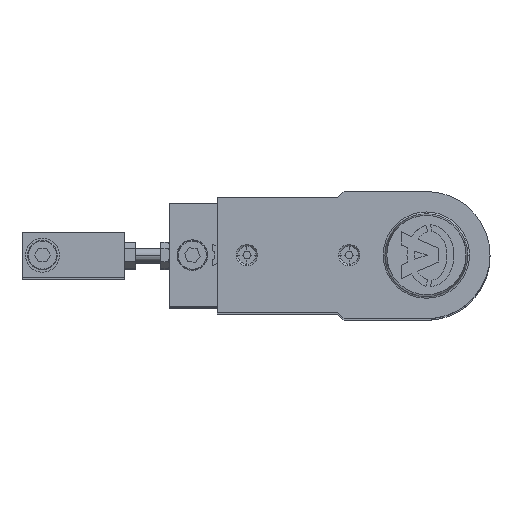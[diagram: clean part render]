
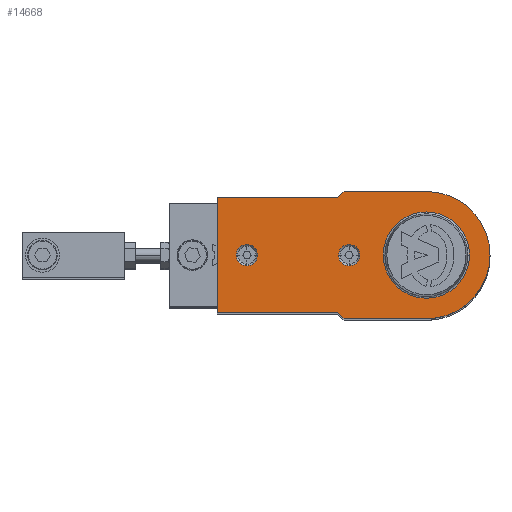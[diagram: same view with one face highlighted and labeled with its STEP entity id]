
A CAD part, top view. The second image highlights one B-rep face of the part: STEP entity #14668.
In plain terms, the highlighted planar face has unit normal (0, 0, 1).
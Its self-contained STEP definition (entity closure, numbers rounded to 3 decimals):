
#40 = VERTEX_POINT ( 'NONE', #14060 ) ;
#246 = CARTESIAN_POINT ( 'NONE',  ( 29.3, 0., 37. ) ) ;
#612 = VERTEX_POINT ( 'NONE', #12897 ) ;
#652 = CIRCLE ( 'NONE', #8106, 28. ) ;
#662 = VERTEX_POINT ( 'NONE', #14235 ) ;
#686 = EDGE_CURVE ( 'NONE', #984, #6394, #4591, .T. ) ;
#984 = VERTEX_POINT ( 'NONE', #11335 ) ;
#1056 = DIRECTION ( 'NONE',  ( 1., 0., 0. ) ) ;
#1222 = CARTESIAN_POINT ( 'NONE',  ( 34., 0., 37. ) ) ;
#1491 = AXIS2_PLACEMENT_3D ( 'NONE', #12757, #14098, #1056 ) ;
#1543 = EDGE_LOOP ( 'NONE', ( #2355, #11349 ) ) ;
#1616 = CIRCLE ( 'NONE', #13644, 4.7 ) ;
#1648 = VECTOR ( 'NONE', #10731, 1000. ) ;
#1750 = VERTEX_POINT ( 'NONE', #14047 ) ;
#1835 = ORIENTED_EDGE ( 'NONE', *, *, #7530, .T. ) ;
#1883 = CIRCLE ( 'NONE', #14218, 18.996 ) ;
#2006 = AXIS2_PLACEMENT_3D ( 'NONE', #4940, #6150, #12206 ) ;
#2058 = DIRECTION ( 'NONE',  ( 1., 0., 0. ) ) ;
#2111 = CARTESIAN_POINT ( 'NONE',  ( 0., 0., 37. ) ) ;
#2229 = VERTEX_POINT ( 'NONE', #10164 ) ;
#2317 = LINE ( 'NONE', #14488, #10681 ) ;
#2355 = ORIENTED_EDGE ( 'NONE', *, *, #15057, .F. ) ;
#2533 = DIRECTION ( 'NONE',  ( 0., 0., 1. ) ) ;
#2580 = LINE ( 'NONE', #11852, #7610 ) ;
#2610 = EDGE_CURVE ( 'NONE', #13581, #10367, #1616, .T. ) ;
#2684 = CARTESIAN_POINT ( 'NONE',  ( 39., 25.25, 37. ) ) ;
#2905 = CARTESIAN_POINT ( 'NONE',  ( 79., 0., 37. ) ) ;
#2956 = DIRECTION ( 'NONE',  ( 1., 0., 0. ) ) ;
#3094 = DIRECTION ( 'NONE',  ( 0., 0., -1. ) ) ;
#3155 = DIRECTION ( 'NONE',  ( 0., 0., 1. ) ) ;
#3250 = CARTESIAN_POINT ( 'NONE',  ( 0., 0., 37. ) ) ;
#3384 = EDGE_LOOP ( 'NONE', ( #3442, #13867 ) ) ;
#3395 = VERTEX_POINT ( 'NONE', #6151 ) ;
#3397 = VERTEX_POINT ( 'NONE', #9561 ) ;
#3442 = ORIENTED_EDGE ( 'NONE', *, *, #4328, .T. ) ;
#3502 = DIRECTION ( 'NONE',  ( 1., 0., 0. ) ) ;
#3597 = AXIS2_PLACEMENT_3D ( 'NONE', #1222, #10656, #11837 ) ;
#3607 = EDGE_CURVE ( 'NONE', #3395, #2229, #652, .T. ) ;
#3664 = DIRECTION ( 'NONE',  ( 1., 0., 0. ) ) ;
#3698 = DIRECTION ( 'NONE',  ( -0.707, 0.707, 0. ) ) ;
#4189 = DIRECTION ( 'NONE',  ( 1., 0., 0. ) ) ;
#4328 = EDGE_CURVE ( 'NONE', #662, #3397, #5965, .T. ) ;
#4520 = ORIENTED_EDGE ( 'NONE', *, *, #7560, .T. ) ;
#4544 = EDGE_CURVE ( 'NONE', #4616, #14222, #5787, .T. ) ;
#4591 = LINE ( 'NONE', #5833, #1648 ) ;
#4616 = VERTEX_POINT ( 'NONE', #11075 ) ;
#4940 = CARTESIAN_POINT ( 'NONE',  ( 0., 0., 37. ) ) ;
#4971 = FACE_BOUND ( 'NONE', #14125, .T. ) ;
#5341 = LINE ( 'NONE', #12004, #9621 ) ;
#5475 = DIRECTION ( 'NONE',  ( 1., 0., 0. ) ) ;
#5516 = VECTOR ( 'NONE', #8405, 1000. ) ;
#5659 = PLANE ( 'NONE',  #1491 ) ;
#5774 = EDGE_LOOP ( 'NONE', ( #4520, #7944, #11733, #9978, #1835, #13621, #15194, #8202, #13180 ) ) ;
#5787 = CIRCLE ( 'NONE', #10202, 4.7 ) ;
#5833 = CARTESIAN_POINT ( 'NONE',  ( 92., -25.25, 37. ) ) ;
#5965 = CIRCLE ( 'NONE', #14363, 18.996 ) ;
#6138 = VECTOR ( 'NONE', #10315, 1000. ) ;
#6150 = DIRECTION ( 'NONE',  ( 0., 0., 1. ) ) ;
#6151 = CARTESIAN_POINT ( 'NONE',  ( -28., 0., 37. ) ) ;
#6202 = DIRECTION ( 'NONE',  ( 0., 0., 1. ) ) ;
#6338 = EDGE_CURVE ( 'NONE', #612, #1750, #12851, .T. ) ;
#6394 = VERTEX_POINT ( 'NONE', #10269 ) ;
#6792 = CARTESIAN_POINT ( 'NONE',  ( 36.25, -28., 37. ) ) ;
#7106 = EDGE_CURVE ( 'NONE', #6394, #40, #15182, .T. ) ;
#7166 = VERTEX_POINT ( 'NONE', #2684 ) ;
#7474 = CIRCLE ( 'NONE', #10300, 4.7 ) ;
#7530 = EDGE_CURVE ( 'NONE', #2229, #14706, #5341, .T. ) ;
#7560 = EDGE_CURVE ( 'NONE', #7166, #612, #2580, .T. ) ;
#7610 = VECTOR ( 'NONE', #3698, 1000. ) ;
#7829 = CIRCLE ( 'NONE', #2006, 28. ) ;
#7944 = ORIENTED_EDGE ( 'NONE', *, *, #6338, .T. ) ;
#8070 = CARTESIAN_POINT ( 'NONE',  ( 0., 0., 37. ) ) ;
#8106 = AXIS2_PLACEMENT_3D ( 'NONE', #8070, #3155, #5475 ) ;
#8127 = ORIENTED_EDGE ( 'NONE', *, *, #4544, .F. ) ;
#8202 = ORIENTED_EDGE ( 'NONE', *, *, #7106, .T. ) ;
#8289 = EDGE_CURVE ( 'NONE', #14706, #984, #11833, .T. ) ;
#8353 = CARTESIAN_POINT ( 'NONE',  ( 36.25, -28., 37. ) ) ;
#8405 = DIRECTION ( 'NONE',  ( 0.707, 0.707, 0. ) ) ;
#8815 = CARTESIAN_POINT ( 'NONE',  ( 74.3, 0., 37. ) ) ;
#8818 = CARTESIAN_POINT ( 'NONE',  ( 83.7, 0., 37. ) ) ;
#9161 = DIRECTION ( 'NONE',  ( 0., 0., -1. ) ) ;
#9275 = CIRCLE ( 'NONE', #3597, 4.7 ) ;
#9561 = CARTESIAN_POINT ( 'NONE',  ( -18.996, 0., 37. ) ) ;
#9621 = VECTOR ( 'NONE', #3502, 1000. ) ;
#9685 = ORIENTED_EDGE ( 'NONE', *, *, #14113, .F. ) ;
#9978 = ORIENTED_EDGE ( 'NONE', *, *, #3607, .T. ) ;
#10164 = CARTESIAN_POINT ( 'NONE',  ( 0., -28., 37. ) ) ;
#10202 = AXIS2_PLACEMENT_3D ( 'NONE', #13340, #6202, #2956 ) ;
#10269 = CARTESIAN_POINT ( 'NONE',  ( 92., -25.25, 37. ) ) ;
#10300 = AXIS2_PLACEMENT_3D ( 'NONE', #2905, #11216, #4189 ) ;
#10315 = DIRECTION ( 'NONE',  ( -1., 0., 0. ) ) ;
#10316 = EDGE_CURVE ( 'NONE', #40, #7166, #2317, .T. ) ;
#10367 = VERTEX_POINT ( 'NONE', #8818 ) ;
#10656 = DIRECTION ( 'NONE',  ( 0., 0., 1. ) ) ;
#10681 = VECTOR ( 'NONE', #13565, 1000. ) ;
#10731 = DIRECTION ( 'NONE',  ( 1., 0., 0. ) ) ;
#11048 = CARTESIAN_POINT ( 'NONE',  ( 92., 25.25, 37. ) ) ;
#11075 = CARTESIAN_POINT ( 'NONE',  ( 38.7, 0., 37. ) ) ;
#11216 = DIRECTION ( 'NONE',  ( 0., 0., 1. ) ) ;
#11335 = CARTESIAN_POINT ( 'NONE',  ( 39., -25.25, 37. ) ) ;
#11349 = ORIENTED_EDGE ( 'NONE', *, *, #2610, .F. ) ;
#11449 = DIRECTION ( 'NONE',  ( 1., 0., 0. ) ) ;
#11733 = ORIENTED_EDGE ( 'NONE', *, *, #12383, .T. ) ;
#11833 = LINE ( 'NONE', #8353, #5516 ) ;
#11837 = DIRECTION ( 'NONE',  ( 1., 0., 0. ) ) ;
#11852 = CARTESIAN_POINT ( 'NONE',  ( 36.25, 28., 37. ) ) ;
#12004 = CARTESIAN_POINT ( 'NONE',  ( 0., -28., 37. ) ) ;
#12060 = VECTOR ( 'NONE', #12226, 1000. ) ;
#12206 = DIRECTION ( 'NONE',  ( 1., 0., 0. ) ) ;
#12226 = DIRECTION ( 'NONE',  ( 0., 1., 0. ) ) ;
#12383 = EDGE_CURVE ( 'NONE', #1750, #3395, #7829, .T. ) ;
#12571 = FACE_BOUND ( 'NONE', #3384, .T. ) ;
#12743 = CARTESIAN_POINT ( 'NONE',  ( 0., 28., 37. ) ) ;
#12757 = CARTESIAN_POINT ( 'NONE',  ( 0., 0., 37. ) ) ;
#12851 = LINE ( 'NONE', #12743, #6138 ) ;
#12897 = CARTESIAN_POINT ( 'NONE',  ( 36.25, 28., 37. ) ) ;
#13180 = ORIENTED_EDGE ( 'NONE', *, *, #10316, .T. ) ;
#13340 = CARTESIAN_POINT ( 'NONE',  ( 34., 0., 37. ) ) ;
#13565 = DIRECTION ( 'NONE',  ( -1., 0., 0. ) ) ;
#13581 = VERTEX_POINT ( 'NONE', #8815 ) ;
#13621 = ORIENTED_EDGE ( 'NONE', *, *, #8289, .T. ) ;
#13644 = AXIS2_PLACEMENT_3D ( 'NONE', #14533, #2533, #3664 ) ;
#13720 = EDGE_CURVE ( 'NONE', #3397, #662, #1883, .T. ) ;
#13867 = ORIENTED_EDGE ( 'NONE', *, *, #13720, .T. ) ;
#14047 = CARTESIAN_POINT ( 'NONE',  ( 0., 28., 37. ) ) ;
#14060 = CARTESIAN_POINT ( 'NONE',  ( 92., 25.25, 37. ) ) ;
#14098 = DIRECTION ( 'NONE',  ( 0., 0., 1. ) ) ;
#14113 = EDGE_CURVE ( 'NONE', #14222, #4616, #9275, .T. ) ;
#14125 = EDGE_LOOP ( 'NONE', ( #8127, #9685 ) ) ;
#14218 = AXIS2_PLACEMENT_3D ( 'NONE', #3250, #3094, #11449 ) ;
#14222 = VERTEX_POINT ( 'NONE', #246 ) ;
#14235 = CARTESIAN_POINT ( 'NONE',  ( 18.996, 0., 37. ) ) ;
#14363 = AXIS2_PLACEMENT_3D ( 'NONE', #2111, #9161, #2058 ) ;
#14488 = CARTESIAN_POINT ( 'NONE',  ( 39., 25.25, 37. ) ) ;
#14533 = CARTESIAN_POINT ( 'NONE',  ( 79., 0., 37. ) ) ;
#14668 = ADVANCED_FACE ( 'NONE', ( #12571, #4971, #14949, #14769 ), #5659, .T. ) ;
#14706 = VERTEX_POINT ( 'NONE', #6792 ) ;
#14769 = FACE_OUTER_BOUND ( 'NONE', #5774, .T. ) ;
#14949 = FACE_BOUND ( 'NONE', #1543, .T. ) ;
#15057 = EDGE_CURVE ( 'NONE', #10367, #13581, #7474, .T. ) ;
#15182 = LINE ( 'NONE', #11048, #12060 ) ;
#15194 = ORIENTED_EDGE ( 'NONE', *, *, #686, .T. ) ;
